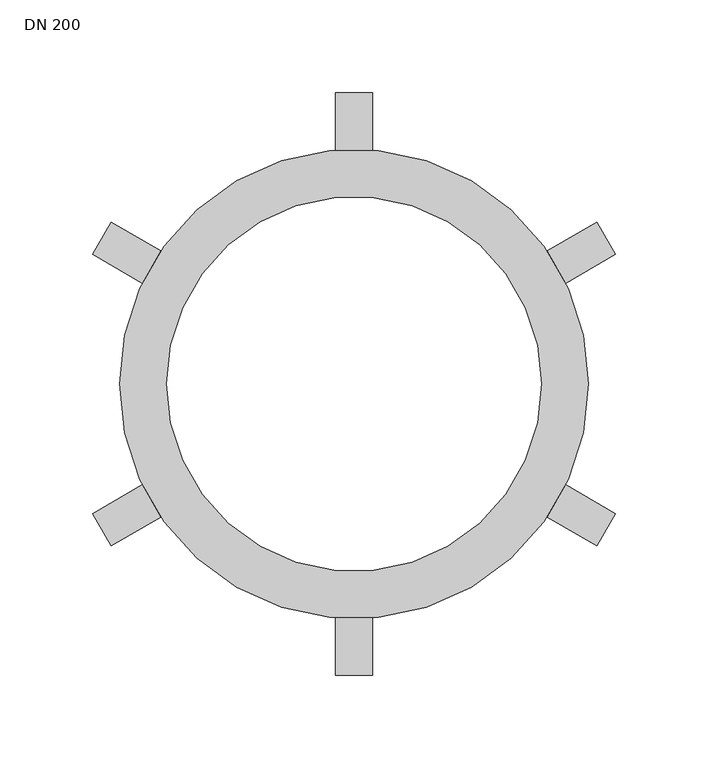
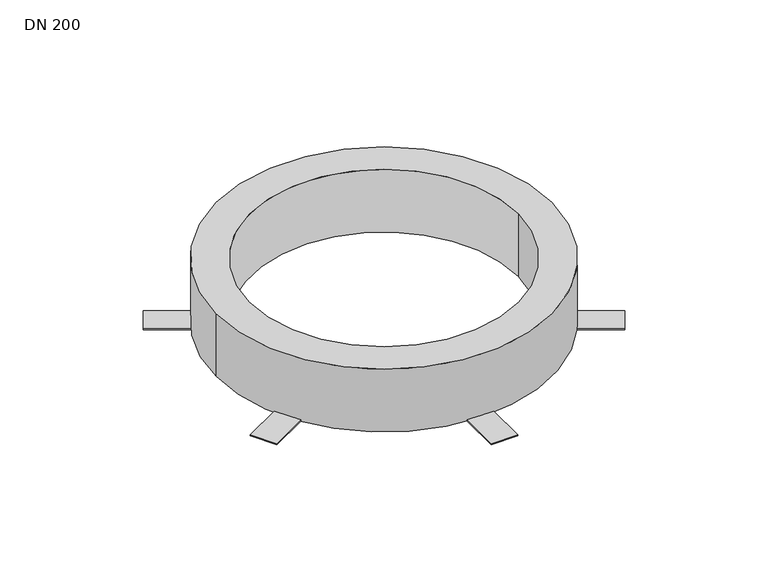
"""IFC4 building model written with IfcOpenShell, lengths in millimetres: proxy geometry, Wavin Brandmanschette für Decken : DN 200."""

import ifcopenshell
import ifcopenshell.guid

model = None  # the IFC model being written
_history = None  # IfcOwnerHistory: only IFC2X3 demands one
_inside = {}  # id of a spatial element -> (the spatial element, [elements in it])
_under = {}  # id of a project, library or spatial element -> (it, [spatial elements below it])
_declared = {}  # id of a project -> (the project, [libraries it declares])
_typed = {}  # id of a type object -> (the type object, [elements of that type])
_made_of = {}  # id of a material, layer set ... -> (it, [elements and type objects made of it])


def new_model(schema):
    """Start an empty IFC model of exactly this schema.

    Asked for "IFC4X3", IfcOpenShell would pick the latest addendum, in which some entities
    have other attributes; the version numbers below select the first issue.
    IFC2X3 requires an IfcOwnerHistory on every rooted entity: one is made here for all.
    """
    global model, _history
    if schema == "IFC4X3":
        model = ifcopenshell.file(schema_version=(4, 3, 0, 0))
    else:
        model = ifcopenshell.file(schema=schema)
    _inside.clear()
    _under.clear()
    _declared.clear()
    _typed.clear()
    _made_of.clear()
    _history = None
    if model.schema == "IFC2X3":
        org = make("IfcOrganization", Name="unknown")
        user = make(
            "IfcPersonAndOrganization",
            ThePerson=make("IfcPerson", FamilyName="unknown"),
            TheOrganization=org,
        )
        app = make(
            "IfcApplication",
            ApplicationDeveloper=org,
            Version="unknown",
            ApplicationFullName="unknown",
            ApplicationIdentifier="unknown",
        )
        _history = make(
            "IfcOwnerHistory",
            OwningUser=user,
            OwningApplication=app,
            ChangeAction="ADDED",
            CreationDate=0,
        )
    return model


def make(cls, **values):
    """One entity of the class cls with the attributes given. An attribute that is None is left unset."""
    return model.create_entity(
        cls, **{name: value for name, value in values.items() if value is not None}
    )


def rooted(cls, **values):
    """An entity with a GlobalId (a new one), such as an element, a storey or a relation."""
    return make(cls, GlobalId=ifcopenshell.guid.new(), OwnerHistory=_history, **values)


def si_unit(unit_type, name, prefix=None):
    """IfcSIUnit, for example si_unit("LENGTHUNIT", "METRE", prefix="MILLI")."""
    return make("IfcSIUnit", UnitType=unit_type, Prefix=prefix, Name=name)


def assignment(units):
    """IfcUnitAssignment: the units of a project."""
    return None if units is None else make("IfcUnitAssignment", Units=units)


def point(xyz):
    """IfcCartesianPoint."""
    return None if xyz is None else make("IfcCartesianPoint", Coordinates=xyz)


def direction(xyz):
    """IfcDirection."""
    return None if xyz is None else make("IfcDirection", DirectionRatios=xyz)


def frame(location, z_axis=None, x_axis=None):
    """IfcAxis2Placement3D, a coordinate frame: its origin and axes. An axis left out is left unset."""
    return make(
        "IfcAxis2Placement3D",
        Location=point(location),
        Axis=direction(z_axis),
        RefDirection=direction(x_axis),
    )


def frame_2d(location, x_axis=None):
    """IfcAxis2Placement2D, a coordinate frame in the plane: its origin and x axis."""
    return make(
        "IfcAxis2Placement2D", Location=point(location), RefDirection=direction(x_axis)
    )


def origin():
    """The frame at (0, 0, 0) with its axes left unset."""
    return frame((0.0, 0.0, 0.0))


def origin_with_axes():
    """The frame at (0, 0, 0) with the z axis (0, 0, 1) and the x axis (1, 0, 0) written out."""
    return frame((0.0, 0.0, 0.0), z_axis=(0.0, 0.0, 1.0), x_axis=(1.0, 0.0, 0.0))


def origin_2d():
    """The frame at (0, 0) in the plane with its x axis left unset."""
    return frame_2d((0.0, 0.0))


def place(relative_to, where):
    """IfcLocalPlacement: puts the frame where relative to a parent placement (None: the world)."""
    return make(
        "IfcLocalPlacement", PlacementRelTo=relative_to, RelativePlacement=where
    )


def context(
    kind, dimensions, precision=None, world=None, true_north=None, identifier=None
):
    """IfcGeometricRepresentationContext, for example the 3D "Model" context."""
    return make(
        "IfcGeometricRepresentationContext",
        ContextIdentifier=identifier,
        ContextType=kind,
        CoordinateSpaceDimension=dimensions,
        Precision=precision,
        WorldCoordinateSystem=world,
        TrueNorth=true_north,
    )


def project(units=None, contexts=None):
    """IfcProject with its units and contexts."""
    return rooted(
        "IfcProject",
        Name="project",
        RepresentationContexts=contexts,
        UnitsInContext=assignment(units),
    )


def spatial(cls, under=None, at=None, **own):
    """A site, building, storey or space (cls), placed at a placement, below another one or the project."""
    s = rooted(cls, ObjectPlacement=at, **own)
    if under is not None:
        _under.setdefault(under.id(), (under, []))[1].append(s)
    return s


def polyline(points):
    """IfcPolyline through the points."""
    return make("IfcPolyline", Points=[point(p) for p in points])


def circle_curve(where, radius):
    """IfcCircle in the frame where."""
    return make("IfcCircle", Position=where, Radius=radius)


def trimmed(basis, trim1, trim2, sense, master):
    """IfcTrimmedCurve: the piece of a basis curve between two trims."""
    return make(
        "IfcTrimmedCurve",
        BasisCurve=basis,
        Trim1=trim1,
        Trim2=trim2,
        SenseAgreement=sense,
        MasterRepresentation=master,
    )


def segment(curve, same_sense, transition):
    """IfcCompositeCurveSegment."""
    return make(
        "IfcCompositeCurveSegment",
        Transition=transition,
        SameSense=same_sense,
        ParentCurve=curve,
    )


def composite_curve(segments, self_intersect=None):
    """IfcCompositeCurve: segments joined end to end."""
    return make("IfcCompositeCurve", Segments=segments, SelfIntersect=self_intersect)


def outline(outer, holes=None, kind="AREA"):
    """IfcArbitraryClosedProfileDef: a profile drawn as a closed curve; with holes, ...WithVoids."""
    if holes is None:
        return make("IfcArbitraryClosedProfileDef", ProfileType=kind, OuterCurve=outer)
    return make(
        "IfcArbitraryProfileDefWithVoids",
        ProfileType=kind,
        OuterCurve=outer,
        InnerCurves=holes,
    )


def extrude(swept, where, along, depth):
    """IfcExtrudedAreaSolid: the profile swept, set in the frame where, extruded along a direction by depth."""
    return make(
        "IfcExtrudedAreaSolid",
        SweptArea=swept,
        Position=where,
        ExtrudedDirection=direction(along),
        Depth=depth,
    )


def shape(context_of_items, identifier, shape_type, items):
    """IfcShapeRepresentation: the items that make up one representation, for example the "Body"."""
    return make(
        "IfcShapeRepresentation",
        ContextOfItems=context_of_items,
        RepresentationIdentifier=identifier,
        RepresentationType=shape_type,
        Items=items,
    )


def source(mapping_origin, context_of_items, identifier, shape_type, items):
    """IfcRepresentationMap: a shape defined once, which mapped items show again and again."""
    return make(
        "IfcRepresentationMap",
        MappingOrigin=mapping_origin,
        MappedRepresentation=shape(context_of_items, identifier, shape_type, items),
    )


def transform(
    local_origin,
    x_axis=None,
    y_axis=None,
    z_axis=None,
    scale=None,
    scale2=None,
    scale3=None,
    uniform=True,
):
    """IfcCartesianTransformationOperator3D, or its non-uniform kind. x_axis, y_axis, z_axis: its Axis1, 2, 3."""
    if uniform:
        return make(
            "IfcCartesianTransformationOperator3D",
            Axis1=direction(x_axis),
            Axis2=direction(y_axis),
            LocalOrigin=point(local_origin),
            Scale=scale,
            Axis3=direction(z_axis),
        )
    return make(
        "IfcCartesianTransformationOperator3DnonUniform",
        Axis1=direction(x_axis),
        Axis2=direction(y_axis),
        LocalOrigin=point(local_origin),
        Scale=scale,
        Axis3=direction(z_axis),
        Scale2=scale2,
        Scale3=scale3,
    )


def mapped(mapping_source, mapping_target):
    """IfcMappedItem: shows the shape of a source again, moved by a transform."""
    return make(
        "IfcMappedItem", MappingSource=mapping_source, MappingTarget=mapping_target
    )


def made_of(thing, what):
    """Note that an element or type object is made of a material, layer set ...; save() writes the relation."""
    if what is not None:
        _made_of.setdefault(what.id(), (what, []))[1].append(thing)
    return thing


def element(
    cls,
    number,
    at=None,
    inside=None,
    cuts=None,
    type_object=None,
    material=None,
    context=None,
    identifier="Body",
    shape_type=None,
    held_by="IfcProductDefinitionShape",
    body=None,
    shapes=None,
    **own,
):
    """One element of the class cls, such as IfcWall. Its Tag is "e" and its number.

    at: its placement. inside: the storey or other place that contains it. cuts: it is an
    opening in that element (IfcRelVoidsElement). A single representation is given by context,
    identifier, shape_type and body (its items); several are given by shapes. held_by: the class
    of the entity that holds the representations. save() writes the other relations.
    """
    e = rooted(cls, Tag="e%d" % number, ObjectPlacement=at, **own)
    if body is not None:
        shapes = [shape(context, identifier, shape_type, body)]
    if shapes is not None:
        e.Representation = make(held_by, Representations=shapes)
    if inside is not None:
        _inside.setdefault(inside.id(), (inside, []))[1].append(e)
    if cuts is not None:
        rooted(
            "IfcRelVoidsElement", RelatingBuildingElement=cuts, RelatedOpeningElement=e
        )
    if type_object is not None:
        _typed.setdefault(type_object.id(), (type_object, []))[1].append(e)
    return made_of(e, material)


def aggregate(whole, parts):
    """IfcRelAggregates: a whole, such as a stair, and the parts it consists of."""
    return rooted("IfcRelAggregates", RelatingObject=whole, RelatedObjects=parts)


def save(model, path):
    """Write the relations noted so far, then the file.

    IfcRelAggregates (storeys below a building ...), IfcRelContainedInSpatialStructure (elements
    in a storey), IfcRelDefinesByType, IfcRelAssociatesMaterial and IfcRelDeclares: one each for
    every whole, place, type object, material and project.
    """
    for whole, parts in _under.values():
        aggregate(whole, parts)
    for where, things in _inside.values():
        rooted(
            "IfcRelContainedInSpatialStructure",
            RelatedElements=things,
            RelatingStructure=where,
        )
    for kind, things in _typed.values():
        rooted("IfcRelDefinesByType", RelatedObjects=things, RelatingType=kind)
    for what, things in _made_of.values():
        rooted("IfcRelAssociatesMaterial", RelatedObjects=things, RelatingMaterial=what)
    for by, libraries in _declared.values():
        rooted("IfcRelDeclares", RelatingContext=by, RelatedDefinitions=libraries)
    model.write(path)


def dn_200_3af189cd(model_context):
    return source(origin(), model_context, "Body", "SweptSolid", [
        extrude(outline(composite_curve([segment(polyline([(140.9659884, -69.839746), (130.9659884, -87.160254), (104.2093746, -71.7123159)]), True, "CONTINUOUS"), segment(trimmed(circle_curve(origin_2d(), 126.5), [point((104.2093746, -71.7123159))], [point((114.2093746, -54.3918078))], True, "CARTESIAN"), True, "CONTINUOUS"), segment(polyline([(114.2093746, -54.3918078), (140.9659884, -69.839746)]), True, "CONTINUOUS")], self_intersect=False)), origin_with_axes(), (0.0, 0.0, 1.0), 1.0),
        extrude(outline(composite_curve([segment(polyline([(130.9659884, 87.160254), (140.9659884, 69.839746), (114.2093746, 54.3918078)]), True, "CONTINUOUS"), segment(trimmed(circle_curve(origin_2d(), 126.5), [point((114.2093746, 54.3918078))], [point((104.2093746, 71.7123159))], True, "CARTESIAN"), True, "CONTINUOUS"), segment(polyline([(104.2093746, 71.7123159), (130.9659884, 87.160254)]), True, "CONTINUOUS")], self_intersect=False)), origin_with_axes(), (0.0, 0.0, 1.0), 1.0),
        extrude(outline(composite_curve([segment(polyline([(-10.0, 157.0), (10.0, 157.0), (10.0, 126.1041236)]), True, "CONTINUOUS"), segment(trimmed(circle_curve(origin_2d(), 126.5), [point((10.0, 126.1041236))], [point((-10.0, 126.1041236))], True, "CARTESIAN"), True, "CONTINUOUS"), segment(polyline([(-10.0, 126.1041236), (-10.0, 157.0)]), True, "CONTINUOUS")], self_intersect=False)), origin_with_axes(), (0.0, 0.0, 1.0), 1.0),
        extrude(outline(composite_curve([segment(polyline([(-140.9659884, 69.839746), (-130.9659884, 87.160254), (-104.2093746, 71.7123159)]), True, "CONTINUOUS"), segment(trimmed(circle_curve(origin_2d(), 126.5), [point((-104.2093746, 71.7123159))], [point((-114.2093746, 54.3918078))], True, "CARTESIAN"), True, "CONTINUOUS"), segment(polyline([(-114.2093746, 54.3918078), (-140.9659884, 69.839746)]), True, "CONTINUOUS")], self_intersect=False)), origin_with_axes(), (0.0, 0.0, 1.0), 1.0),
        extrude(outline(composite_curve([segment(polyline([(-130.9659884, -87.160254), (-140.9659884, -69.839746), (-114.2093746, -54.3918078)]), True, "CONTINUOUS"), segment(trimmed(circle_curve(origin_2d(), 126.5), [point((-114.2093746, -54.3918078))], [point((-104.2093746, -71.7123159))], True, "CARTESIAN"), True, "CONTINUOUS"), segment(polyline([(-104.2093746, -71.7123159), (-130.9659884, -87.160254)]), True, "CONTINUOUS")], self_intersect=False)), origin_with_axes(), (0.0, 0.0, 1.0), 1.0),
        extrude(outline(composite_curve([segment(polyline([(10.0, -157.0), (-10.0, -157.0), (-10.0, -126.1041236)]), True, "CONTINUOUS"), segment(trimmed(circle_curve(origin_2d(), 126.5), [point((-10.0, -126.1041236))], [point((10.0, -126.1041236))], True, "CARTESIAN"), True, "CONTINUOUS"), segment(polyline([(10.0, -126.1041236), (10.0, -157.0)]), True, "CONTINUOUS")], self_intersect=False)), origin_with_axes(), (0.0, 0.0, 1.0), 1.0),
        extrude(outline(composite_curve([segment(trimmed(circle_curve(origin_2d(), 126.5), [point((-126.5, 0.0))], [point((126.5, 0.0))], False, "CARTESIAN"), True, "CONTINUOUS"), segment(trimmed(circle_curve(origin_2d(), 126.5), [point((126.5, 0.0))], [point((-126.5, 0.0))], False, "CARTESIAN"), True, "CONTINUOUS")], self_intersect=False), holes=[composite_curve([segment(trimmed(circle_curve(origin_2d(), 101.0), [point((-101.0, 0.0))], [point((101.0, 0.0))], True, "CARTESIAN"), True, "CONTINUOUS"), segment(trimmed(circle_curve(origin_2d(), 101.0), [point((101.0, 0.0))], [point((-101.0, 0.0))], True, "CARTESIAN"), True, "CONTINUOUS")], self_intersect=False)]), origin_with_axes(), (0.0, 0.0, 1.0), 50.0),
    ])


if __name__ == "__main__":
    model = new_model("IFC4")
    model_context = context("Model", 3, world=origin())
    ifc_project = project(units=[si_unit("LENGTHUNIT", "METRE", prefix="MILLI")], contexts=[model_context])
    site = spatial("IfcSite", under=ifc_project)
    building = spatial("IfcBuilding", under=site)
    placement = place(None, origin())
    dn_200_shape = dn_200_3af189cd(model_context)
    element("IfcBuildingElementProxy", 1, Name="Wavin Brandmanschette für Decken : DN 200", ObjectType="Wavin Brandmanschette für Decken : DN 200", at=placement, inside=building, context=model_context, shape_type="MappedRepresentation", body=[
        mapped(dn_200_shape, transform((0.0, 0.0, 0.0), x_axis=(1.0, 0.0, 0.0), y_axis=(0.0, 1.0, 0.0), z_axis=(0.0, 0.0, 1.0))),
    ])
    save(model, "model.ifc")
